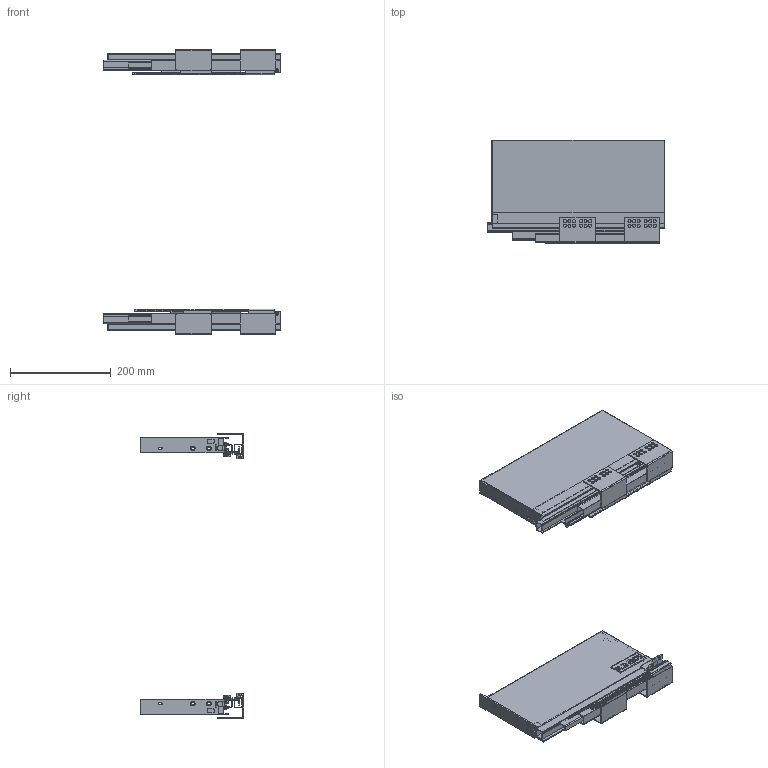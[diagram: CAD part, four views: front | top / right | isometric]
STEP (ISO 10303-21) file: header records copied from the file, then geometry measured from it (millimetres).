
FILE_DESCRIPTION(/* description */ (''),/* implementation_level */ '2;1');
FILE_NAME(/* name */ 'C:\Users\dmitruk\Documents\WORK\\X2\041D0410041F042004100412041B042F042E042904180415\X0\\SLIMBOX\SLIMBOX\SLIMBOX H175 L-350.stp',/* time_stamp */ '2022-04-19T17:18:58+03:00',/* author */ ('dmitruk'),/* organization */ ('AKS'),/* preprocessor_version */ 'ST-DEVELOPER v16.5',/* originating_system */ 'Autodesk Inventor 2017',/* authorisation */ '');
FILE_SCHEMA (('AUTOMOTIVE_DESIGN { 1 0 10303 214 3 1 1 }'));
Length unit declared in the file: millimetre
Products named in the file (13): SLIMBOX 90 мм правый; Боковина SLIMBOX _2; Направляющие \X2\0441043A
0440044B0442043E0433043E\X0\ монтажа \X2\043F
043E043B043D043E0433043E\X0\ \X2\0432044B04340432043804360435043D0438044F
\X0\ SLIMBOX-01; CR SLIMBOX-350; DR SLIMBOX; Крепление \X2\04440430
0441043004340430\X0\ SLIMBOX прав; CR SLIMBOX-500; DL SLIMBOX; Крепление \X2\04440430
0441043004340430\X0\ SLIMBOX лев; slim DW; Крепление к 
фасаду; Заглушка SLIMBOX; Крепление к 
фасаду 175
Assembly tree (16 placements, depth 3):
  SLIMBOX 90 мм правый
    Боковина SLIMBOX _2
    Направляющие \X2\0441043A
0440044B0442043E0433043E\X0\ монтажа \X2\043F
043E043B043D043E0433043E\X0\ \X2\0432044B04340432043804360435043D0438044F
\X0\ SLIMBOX-01
      CR SLIMBOX-350
      DR SLIMBOX
      slim DW  x2
      Крепление \X2\04440430
0441043004340430\X0\ SLIMBOX прав
      CR SLIMBOX-500
      DL SLIMBOX
      Крепление \X2\04440430
0441043004340430\X0\ SLIMBOX лев
    Крепление к 
фасаду  x2
    Заглушка SLIMBOX  x2
    Крепление к 
фасаду 175  x2
Bounding box: 350 x 204.5 x 564 mm (x, y, z)
Volume: 564131.4 mm3; surface area: 834984.5 mm2
Topology: 36 solids, 36 shells, 1635 faces, 4461 edges, 2949 vertices
Faces by surface type: plane 1149, cylinder 434, cone 28, torus 24
Full cylindrical faces by diameter (mm): 3 x4, 3.8 x4, 4 x16, 4.8 x4, 6 x48, 7.603 x4, 7.801 x2, 8.085 x2, 10.37 x4, 11 x12, 12.231 x2
Entity records: 39629 total; most frequent: CARTESIAN_POINT 6764, ORIENTED_EDGE 6542, DIRECTION 6467, EDGE_CURVE 3271, LINE 2631, VECTOR 2631, VERTEX_POINT 2215, AXIS2_PLACEMENT_3D 1918
